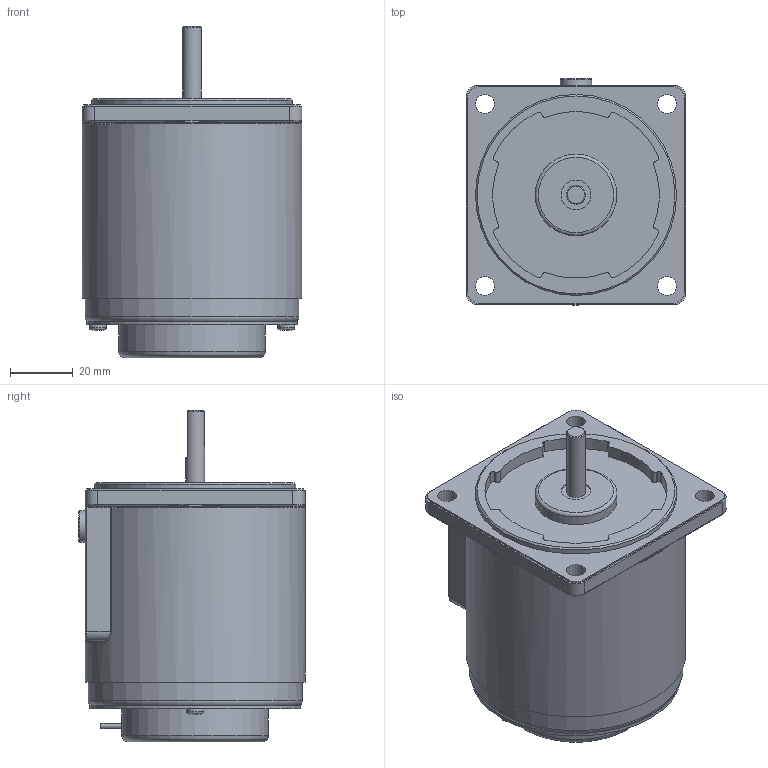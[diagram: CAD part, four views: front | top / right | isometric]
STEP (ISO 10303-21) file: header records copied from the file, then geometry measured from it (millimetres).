
FILE_DESCRIPTION (( 'STEP AP214' ), '1' );
FILE_NAME ('7SDD､ｱ-6.STEP', '2025-01-13T08:15:59', ( '' ), ( '' ), 'SwSTEP 2.0', 'SolidWorks 2024', '' );
FILE_SCHEMA (( 'AUTOMOTIVE_DESIGN' ));
Length unit declared in the file: millimetre
Products named in the file (1): 7SDDㅁ-6
Bounding box: 70.01 x 72 x 105.5 mm (x, y, z)
Volume: 294585.4 mm3; surface area: 31452.8 mm2
Topology: 1 solids, 2 shells, 190 faces, 462 edges, 295 vertices
Faces by surface type: plane 73, cylinder 71, bspline 28, torus 16, cone 2
Full cylindrical faces by diameter (mm): 1.6 x2, 5.5 x2, 6 x6, 9.5 x1, 10 x5, 26 x1, 34.5 x1, 46.7 x1, 64 x1, 67 x1, 68.1 x1, 70 x1
Entity records: 7519 total; most frequent: CARTESIAN_POINT 3386, ORIENTED_EDGE 844, DIRECTION 788, EDGE_CURVE 422, AXIS2_PLACEMENT_3D 313, VERTEX_POINT 285, EDGE_LOOP 247, FACE_OUTER_BOUND 219
